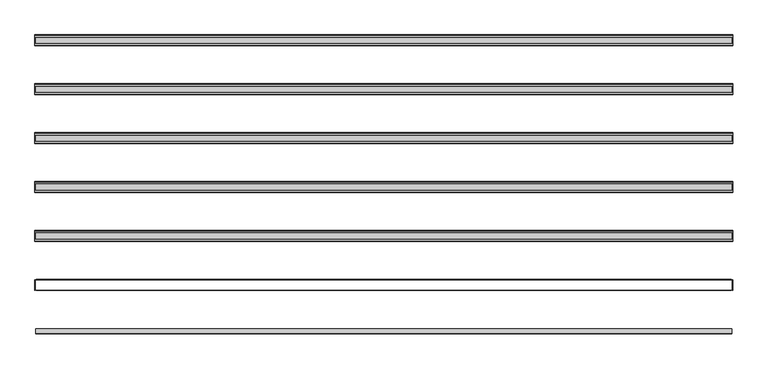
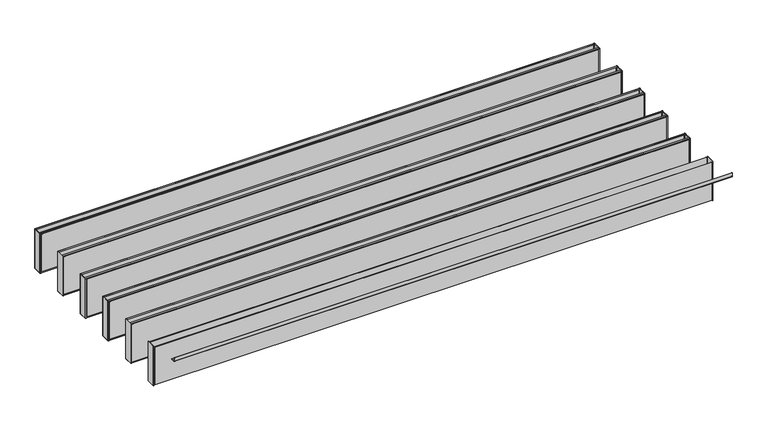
"""IFC4 building model written with IfcOpenShell, lengths in millimetres: proxy geometry, durlum_POLYLAM : durlum_POLYLAM 63."""

from ifc_helpers import new_model, si_unit, point, frame, frame_2d, origin, place, context, project, spatial, polyline, circle_curve, trimmed, segment, composite_curve, outline, extrude, source, transform, mapped, element, save
from ifc_brep_helpers import plane_surface, cylinder_surface, advanced_brep


def generic_models_02a78667(model_context):
    return source(origin(), model_context, "Body", "SolidModel", [
        extrude(outline(composite_curve([segment(polyline([(2.0, 2079.9), (2.0, 2054.0)]), True, "CONTINUOUS"), segment(trimmed(circle_curve(frame_2d((4.0, 2054.0)), 2.0), [point((2.0, 2054.0))], [point((4.0, 2052.0))], True, "CARTESIAN"), True, "CONTINUOUS"), segment(polyline([(4.0, 2052.0), (29.9, 2052.0), (29.9, 2050.0), (4.0, 2050.0)]), True, "CONTINUOUS"), segment(trimmed(circle_curve(frame_2d((4.0, 2054.0)), 4.0), [point((4.0, 2050.0))], [point((0.0, 2054.0))], False, "CARTESIAN"), True, "CONTINUOUS"), segment(polyline([(0.0, 2054.0), (0.0, 2079.9), (2.0, 2079.9)]), True, "CONTINUOUS")], self_intersect=False)), frame((-1990.0, 0.0, 0.0), z_axis=(1.0, 0.0, 0.0), x_axis=(0.0, 1.0, 0.0)), (0.0, 0.0, 1.0), 3980.0),
        extrude(outline(polyline([(1986.5, 1710.5), (-1986.5, 1710.5), (-1986.5, 1711.5), (1986.5, 1711.5), (1986.5, 1710.5)])), frame((0.0, 0.0, 1725.4), z_axis=(0.0, 0.0, 1.0), x_axis=(1.0, 0.0, 0.0)), (0.0, 0.0, 1.0), 283.0),
        extrude(outline(polyline([(1986.5, 1648.5), (-1986.5, 1648.5), (-1986.5, 1649.5), (1986.5, 1649.5), (1986.5, 1648.5)])), frame((0.0, 0.0, 1725.4), z_axis=(0.0, 0.0, 1.0), x_axis=(1.0, 0.0, 0.0)), (0.0, 0.0, 1.0), 283.0),
        extrude(outline(polyline([(1993.0, 1710.5), (1995.0, 1710.5), (1995.0, 1649.5), (1993.0, 1649.5), (1993.0, 1710.5)])), frame((0.0, 0.0, 1717.9), z_axis=(0.0, 0.0, 1.0), x_axis=(1.0, 0.0, 0.0)), (0.0, 0.0, 1.0), 298.0),
        extrude(outline(polyline([(-1995.0, 1710.5), (-1993.0, 1710.5), (-1993.0, 1649.5), (-1995.0, 1649.5), (-1995.0, 1710.5)])), frame((0.0, 0.0, 1717.9), z_axis=(0.0, 0.0, 1.0), x_axis=(1.0, 0.0, 0.0)), (0.0, 0.0, 1.0), 298.0),
        advanced_brep(
        [(1995.0, 1709.5, 2016.9), (1995.0, 1699.5, 2016.9), (1995.0, 1699.5, 2015.9), (1995.0, 1710.5, 2015.9), (1995.0, 1710.5, 1717.9), (1995.0, 1649.5, 1717.9), (1995.0, 1649.5, 2015.8155735), (1995.0, 1660.5, 2015.8155735), (1995.0, 1660.5, 2016.9), (1995.0, 1650.5, 2016.9), (1995.0, 1648.5, 2014.9), (1995.0, 1648.5, 1718.9), (1995.0, 1650.5, 1716.9), (1995.0, 1709.5, 1716.9), (1995.0, 1711.5, 1718.9), (1995.0, 1711.5, 2014.9), (-1995.0, 1709.5, 2016.9), (-1995.0, 1711.5, 2014.9), (-1995.0, 1711.5, 1718.9), (-1995.0, 1709.5, 1716.9), (-1995.0, 1650.5, 1716.9), (-1995.0, 1648.5, 1718.9), (-1995.0, 1648.5, 2014.9), (-1995.0, 1650.5, 2016.9), (-1995.0, 1660.5, 2016.9), (-1995.0, 1660.5, 2015.8155735), (-1995.0, 1649.5, 2015.8155735), (-1995.0, 1649.5, 1717.9), (-1995.0, 1710.5, 1717.9), (-1995.0, 1710.5, 2015.9), (-1995.0, 1699.5, 2015.9), (-1995.0, 1699.5, 2016.9), (-1986.5, 1710.5, 2008.4), (1986.5, 1710.5, 2008.4), (1986.5, 1710.5, 1725.4), (-1986.5, 1710.5, 1725.4), (1986.5, 1649.5, 2008.4), (-1986.5, 1649.5, 2008.4), (-1986.5, 1649.5, 1725.4), (1986.5, 1649.5, 1725.4), (-1986.5, 1648.5, 2008.4), (1986.5, 1648.5, 2008.4), (1986.5, 1648.5, 1725.4), (-1986.5, 1648.5, 1725.4), (1986.5, 1711.5, 2008.4), (-1986.5, 1711.5, 2008.4), (-1986.5, 1711.5, 1725.4), (1986.5, 1711.5, 1725.4)],
        [
            (0, 1),
            (1, 2),
            (2, 3),
            (3, 4),
            (4, 5),
            (5, 6),
            (6, 7),
            (7, 8),
            (8, 9),
            (9, 10, circle_curve(frame((1995.0, 1650.5, 2014.9), z_axis=(1.0, 0.0, 0.0), x_axis=(0.0, 1.0, 0.0)), 2.0)),
            (10, 11),
            (11, 12, circle_curve(frame((1995.0, 1650.5, 1718.9), z_axis=(1.0, 0.0, 0.0), x_axis=(0.0, 1.0, 0.0)), 2.0)),
            (12, 13),
            (13, 14, circle_curve(frame((1995.0, 1709.5, 1718.9), z_axis=(1.0, 0.0, 0.0), x_axis=(0.0, 1.0, 0.0)), 2.0)),
            (14, 15),
            (15, 0, circle_curve(frame((1995.0, 1709.5, 2014.9), z_axis=(1.0, 0.0, 0.0), x_axis=(0.0, 1.0, 0.0)), 2.0)),
            (16, 17, circle_curve(frame((-1995.0, 1709.5, 2014.9), z_axis=(-1.0, 0.0, 0.0), x_axis=(0.0, 1.0, 0.0)), 2.0)),
            (17, 18),
            (18, 19, circle_curve(frame((-1995.0, 1709.5, 1718.9), z_axis=(-1.0, 0.0, 0.0), x_axis=(0.0, 1.0, 0.0)), 2.0)),
            (19, 20),
            (20, 21, circle_curve(frame((-1995.0, 1650.5, 1718.9), z_axis=(-1.0, 0.0, 0.0), x_axis=(0.0, 1.0, 0.0)), 2.0)),
            (21, 22),
            (22, 23, circle_curve(frame((-1995.0, 1650.5, 2014.9), z_axis=(-1.0, 0.0, 0.0), x_axis=(0.0, 1.0, 0.0)), 2.0)),
            (23, 24),
            (24, 25),
            (25, 26),
            (26, 27),
            (27, 28),
            (28, 29),
            (29, 30),
            (30, 31),
            (31, 16),
            (0, 16),
            (31, 1),
            (30, 2),
            (29, 3),
            (28, 4),
            (32, 33),
            (33, 34),
            (34, 35),
            (35, 32),
            (27, 5),
            (26, 6),
            (36, 37),
            (37, 38),
            (38, 39),
            (39, 36),
            (25, 7),
            (24, 8),
            (23, 9),
            (10, 22),
            (21, 11),
            (40, 41),
            (41, 42),
            (42, 43),
            (43, 40),
            (12, 20),
            (19, 13),
            (14, 18),
            (17, 15),
            (44, 45),
            (45, 46),
            (46, 47),
            (47, 44),
            (44, 33),
            (32, 45),
            (36, 41),
            (40, 37),
            (35, 46),
            (43, 38),
            (34, 47),
            (42, 39),
        ],
        [
            plane_surface(frame((1995.0, 1699.5, 2016.9), z_axis=(1.0, 0.0, 0.0), x_axis=(0.0, -1.0, 0.0))),
            plane_surface(frame((-1995.0, 1699.5, 2016.9), z_axis=(-1.0, 0.0, 0.0), x_axis=(0.0, 1.0, 0.0))),
            plane_surface(frame((1995.0, 1709.5, 2016.9), z_axis=(0.0, 0.0, 1.0), x_axis=(-1.0, 0.0, 0.0))),
            plane_surface(frame((1995.0, 1699.5, 2016.9), z_axis=(0.0, -1.0, 0.0), x_axis=(-1.0, 0.0, 0.0))),
            plane_surface(frame((1995.0, 1699.5, 2015.9), z_axis=(0.0, 0.0, -1.0), x_axis=(-1.0, 0.0, 0.0))),
            plane_surface(frame((1995.0, 1710.5, 2015.9), z_axis=(0.0, -1.0, 0.0), x_axis=(-1.0, 0.0, 0.0))),
            plane_surface(frame((1995.0, 1710.5, 1717.9), z_axis=(0.0, 0.0, 1.0), x_axis=(-1.0, 0.0, 0.0))),
            plane_surface(frame((1995.0, 1649.5, 1717.9), z_axis=(0.0, 1.0, 0.0), x_axis=(-1.0, 0.0, 0.0))),
            plane_surface(frame((1995.0, 1649.5, 2015.8155735), z_axis=(0.0, 0.0, -1.0), x_axis=(-1.0, 0.0, 0.0))),
            plane_surface(frame((1995.0, 1660.5, 2015.8155735), z_axis=(0.0, 1.0, 0.0), x_axis=(-1.0, 0.0, 0.0))),
            plane_surface(frame((1995.0, 1660.5, 2016.9), z_axis=(0.0, 0.0, 1.0), x_axis=(-1.0, 0.0, 0.0))),
            plane_surface(frame((1995.0, 1648.5, 2014.9), z_axis=(0.0, -1.0, 0.0), x_axis=(-1.0, 0.0, 0.0))),
            plane_surface(frame((1995.0, 1650.5, 1716.9), z_axis=(0.0, 0.0, -1.0), x_axis=(-1.0, 0.0, 0.0))),
            plane_surface(frame((1995.0, 1711.5, 1718.9), z_axis=(0.0, 1.0, 0.0), x_axis=(-1.0, 0.0, 0.0))),
            cylinder_surface(frame((-1995.0, 1650.5, 2014.9), z_axis=(1.0, 0.0, 0.0), x_axis=(0.0, 1.0, 0.0)), 2.0),
            cylinder_surface(frame((-1995.0, 1650.5, 1718.9), z_axis=(1.0, 0.0, 0.0), x_axis=(0.0, 1.0, 0.0)), 2.0),
            cylinder_surface(frame((-1995.0, 1709.5, 1718.9), z_axis=(1.0, 0.0, 0.0), x_axis=(0.0, 1.0, 0.0)), 2.0),
            cylinder_surface(frame((-1995.0, 1709.5, 2014.9), z_axis=(1.0, 0.0, 0.0), x_axis=(0.0, 1.0, 0.0)), 2.0),
            plane_surface(frame((1986.5, 1648.5, 2008.4), z_axis=(0.0, 0.0, -1.0), x_axis=(0.0, 1.0, 0.0))),
            plane_surface(frame((-1986.5, 1648.5, 2008.4), z_axis=(1.0, 0.0, 0.0), x_axis=(0.0, 1.0, 0.0))),
            plane_surface(frame((-1986.5, 1648.5, 1725.4), z_axis=(0.0, 0.0, 1.0), x_axis=(0.0, 1.0, 0.0))),
            plane_surface(frame((1986.5, 1648.5, 1725.4), z_axis=(-1.0, 0.0, 0.0), x_axis=(0.0, 1.0, 0.0))),
        ],
        [
            (0, [[1, 2, 3, 4, 5, 6, 7, 8, 9, 10, 11, 12, 13, 14, 15, 16]]),
            (1, [[17, 18, 19, 20, 21, 22, 23, 24, 25, 26, 27, 28, 29, 30, 31, 32]]),
            (2, [[-1, 33, -32, 34]]),
            (3, [[-2, -34, -31, 35]]),
            (4, [[-3, -35, -30, 36]]),
            (5, [[-4, -36, -29, 37], [38, 39, 40, 41]]),
            (6, [[-5, -37, -28, 42]]),
            (7, [[-6, -42, -27, 43], [44, 45, 46, 47]]),
            (8, [[-7, -43, -26, 48]]),
            (9, [[-8, -48, -25, 49]]),
            (10, [[-9, -49, -24, 50]]),
            (11, [[-11, 51, -22, 52], [53, 54, 55, 56]]),
            (12, [[-13, 57, -20, 58]]),
            (13, [[-15, 59, -18, 60], [61, 62, 63, 64]]),
            (14, [[-10, -50, -23, -51]]),
            (15, [[-12, -52, -21, -57]]),
            (16, [[-14, -58, -19, -59]]),
            (17, [[-16, -60, -17, -33]]),
            (18, [[65, -38, 66, -61]]),
            (18, [[67, -53, 68, -44]]),
            (19, [[-66, -41, 69, -62]]),
            (19, [[-68, -56, 70, -45]]),
            (20, [[-69, -40, 71, -63]]),
            (20, [[-70, -55, 72, -46]]),
            (21, [[-65, -64, -71, -39]]),
            (21, [[-67, -47, -72, -54]]),
        ],
    ),
        extrude(outline(polyline([(1986.5, 1430.5), (-1986.5, 1430.5), (-1986.5, 1431.5), (1986.5, 1431.5), (1986.5, 1430.5)])), frame((0.0, 0.0, 1725.4), z_axis=(0.0, 0.0, 1.0), x_axis=(1.0, 0.0, 0.0)), (0.0, 0.0, 1.0), 283.0),
        extrude(outline(polyline([(1986.5, 1368.5), (-1986.5, 1368.5), (-1986.5, 1369.5), (1986.5, 1369.5), (1986.5, 1368.5)])), frame((0.0, 0.0, 1725.4), z_axis=(0.0, 0.0, 1.0), x_axis=(1.0, 0.0, 0.0)), (0.0, 0.0, 1.0), 283.0),
        extrude(outline(polyline([(1993.0, 1430.5), (1995.0, 1430.5), (1995.0, 1369.5), (1993.0, 1369.5), (1993.0, 1430.5)])), frame((0.0, 0.0, 1717.9), z_axis=(0.0, 0.0, 1.0), x_axis=(1.0, 0.0, 0.0)), (0.0, 0.0, 1.0), 298.0),
        extrude(outline(polyline([(-1995.0, 1430.5), (-1993.0, 1430.5), (-1993.0, 1369.5), (-1995.0, 1369.5), (-1995.0, 1430.5)])), frame((0.0, 0.0, 1717.9), z_axis=(0.0, 0.0, 1.0), x_axis=(1.0, 0.0, 0.0)), (0.0, 0.0, 1.0), 298.0),
        advanced_brep(
        [(1995.0, 1429.5, 2016.9), (1995.0, 1419.5, 2016.9), (1995.0, 1419.5, 2015.9), (1995.0, 1430.5, 2015.9), (1995.0, 1430.5, 1717.9), (1995.0, 1369.5, 1717.9), (1995.0, 1369.5, 2015.8155735), (1995.0, 1380.5, 2015.8155735), (1995.0, 1380.5, 2016.9), (1995.0, 1370.5, 2016.9), (1995.0, 1368.5, 2014.9), (1995.0, 1368.5, 1718.9), (1995.0, 1370.5, 1716.9), (1995.0, 1429.5, 1716.9), (1995.0, 1431.5, 1718.9), (1995.0, 1431.5, 2014.9), (-1995.0, 1429.5, 2016.9), (-1995.0, 1431.5, 2014.9), (-1995.0, 1431.5, 1718.9), (-1995.0, 1429.5, 1716.9), (-1995.0, 1370.5, 1716.9), (-1995.0, 1368.5, 1718.9), (-1995.0, 1368.5, 2014.9), (-1995.0, 1370.5, 2016.9), (-1995.0, 1380.5, 2016.9), (-1995.0, 1380.5, 2015.8155735), (-1995.0, 1369.5, 2015.8155735), (-1995.0, 1369.5, 1717.9), (-1995.0, 1430.5, 1717.9), (-1995.0, 1430.5, 2015.9), (-1995.0, 1419.5, 2015.9), (-1995.0, 1419.5, 2016.9), (-1986.5, 1430.5, 2008.4), (1986.5, 1430.5, 2008.4), (1986.5, 1430.5, 1725.4), (-1986.5, 1430.5, 1725.4), (1986.5, 1369.5, 2008.4), (-1986.5, 1369.5, 2008.4), (-1986.5, 1369.5, 1725.4), (1986.5, 1369.5, 1725.4), (-1986.5, 1368.5, 2008.4), (1986.5, 1368.5, 2008.4), (1986.5, 1368.5, 1725.4), (-1986.5, 1368.5, 1725.4), (1986.5, 1431.5, 2008.4), (-1986.5, 1431.5, 2008.4), (-1986.5, 1431.5, 1725.4), (1986.5, 1431.5, 1725.4)],
        [
            (0, 1),
            (1, 2),
            (2, 3),
            (3, 4),
            (4, 5),
            (5, 6),
            (6, 7),
            (7, 8),
            (8, 9),
            (9, 10, circle_curve(frame((1995.0, 1370.5, 2014.9), z_axis=(1.0, 0.0, 0.0), x_axis=(0.0, 1.0, 0.0)), 2.0)),
            (10, 11),
            (11, 12, circle_curve(frame((1995.0, 1370.5, 1718.9), z_axis=(1.0, 0.0, 0.0), x_axis=(0.0, 1.0, 0.0)), 2.0)),
            (12, 13),
            (13, 14, circle_curve(frame((1995.0, 1429.5, 1718.9), z_axis=(1.0, 0.0, 0.0), x_axis=(0.0, 1.0, 0.0)), 2.0)),
            (14, 15),
            (15, 0, circle_curve(frame((1995.0, 1429.5, 2014.9), z_axis=(1.0, 0.0, 0.0), x_axis=(0.0, 1.0, 0.0)), 2.0)),
            (16, 17, circle_curve(frame((-1995.0, 1429.5, 2014.9), z_axis=(-1.0, 0.0, 0.0), x_axis=(0.0, 1.0, 0.0)), 2.0)),
            (17, 18),
            (18, 19, circle_curve(frame((-1995.0, 1429.5, 1718.9), z_axis=(-1.0, 0.0, 0.0), x_axis=(0.0, 1.0, 0.0)), 2.0)),
            (19, 20),
            (20, 21, circle_curve(frame((-1995.0, 1370.5, 1718.9), z_axis=(-1.0, 0.0, 0.0), x_axis=(0.0, 1.0, 0.0)), 2.0)),
            (21, 22),
            (22, 23, circle_curve(frame((-1995.0, 1370.5, 2014.9), z_axis=(-1.0, 0.0, 0.0), x_axis=(0.0, 1.0, 0.0)), 2.0)),
            (23, 24),
            (24, 25),
            (25, 26),
            (26, 27),
            (27, 28),
            (28, 29),
            (29, 30),
            (30, 31),
            (31, 16),
            (0, 16),
            (31, 1),
            (30, 2),
            (29, 3),
            (28, 4),
            (32, 33),
            (33, 34),
            (34, 35),
            (35, 32),
            (27, 5),
            (26, 6),
            (36, 37),
            (37, 38),
            (38, 39),
            (39, 36),
            (25, 7),
            (24, 8),
            (23, 9),
            (10, 22),
            (21, 11),
            (40, 41),
            (41, 42),
            (42, 43),
            (43, 40),
            (12, 20),
            (19, 13),
            (14, 18),
            (17, 15),
            (44, 45),
            (45, 46),
            (46, 47),
            (47, 44),
            (44, 33),
            (32, 45),
            (36, 41),
            (40, 37),
            (35, 46),
            (43, 38),
            (34, 47),
            (42, 39),
        ],
        [
            plane_surface(frame((1995.0, 1419.5, 2016.9), z_axis=(1.0, 0.0, 0.0), x_axis=(0.0, -1.0, 0.0))),
            plane_surface(frame((-1995.0, 1419.5, 2016.9), z_axis=(-1.0, 0.0, 0.0), x_axis=(0.0, 1.0, 0.0))),
            plane_surface(frame((1995.0, 1429.5, 2016.9), z_axis=(0.0, 0.0, 1.0), x_axis=(-1.0, 0.0, 0.0))),
            plane_surface(frame((1995.0, 1419.5, 2016.9), z_axis=(0.0, -1.0, 0.0), x_axis=(-1.0, 0.0, 0.0))),
            plane_surface(frame((1995.0, 1419.5, 2015.9), z_axis=(0.0, 0.0, -1.0), x_axis=(-1.0, 0.0, 0.0))),
            plane_surface(frame((1995.0, 1430.5, 2015.9), z_axis=(0.0, -1.0, 0.0), x_axis=(-1.0, 0.0, 0.0))),
            plane_surface(frame((1995.0, 1430.5, 1717.9), z_axis=(0.0, 0.0, 1.0), x_axis=(-1.0, 0.0, 0.0))),
            plane_surface(frame((1995.0, 1369.5, 1717.9), z_axis=(0.0, 1.0, 0.0), x_axis=(-1.0, 0.0, 0.0))),
            plane_surface(frame((1995.0, 1369.5, 2015.8155735), z_axis=(0.0, 0.0, -1.0), x_axis=(-1.0, 0.0, 0.0))),
            plane_surface(frame((1995.0, 1380.5, 2015.8155735), z_axis=(0.0, 1.0, 0.0), x_axis=(-1.0, 0.0, 0.0))),
            plane_surface(frame((1995.0, 1380.5, 2016.9), z_axis=(0.0, 0.0, 1.0), x_axis=(-1.0, 0.0, 0.0))),
            plane_surface(frame((1995.0, 1368.5, 2014.9), z_axis=(0.0, -1.0, 0.0), x_axis=(-1.0, 0.0, 0.0))),
            plane_surface(frame((1995.0, 1370.5, 1716.9), z_axis=(0.0, 0.0, -1.0), x_axis=(-1.0, 0.0, 0.0))),
            plane_surface(frame((1995.0, 1431.5, 1718.9), z_axis=(0.0, 1.0, 0.0), x_axis=(-1.0, 0.0, 0.0))),
            cylinder_surface(frame((-1995.0, 1370.5, 2014.9), z_axis=(1.0, 0.0, 0.0), x_axis=(0.0, 1.0, 0.0)), 2.0),
            cylinder_surface(frame((-1995.0, 1370.5, 1718.9), z_axis=(1.0, 0.0, 0.0), x_axis=(0.0, 1.0, 0.0)), 2.0),
            cylinder_surface(frame((-1995.0, 1429.5, 1718.9), z_axis=(1.0, 0.0, 0.0), x_axis=(0.0, 1.0, 0.0)), 2.0),
            cylinder_surface(frame((-1995.0, 1429.5, 2014.9), z_axis=(1.0, 0.0, 0.0), x_axis=(0.0, 1.0, 0.0)), 2.0),
            plane_surface(frame((1986.5, 1368.5, 2008.4), z_axis=(0.0, 0.0, -1.0), x_axis=(0.0, 1.0, 0.0))),
            plane_surface(frame((-1986.5, 1368.5, 2008.4), z_axis=(1.0, 0.0, 0.0), x_axis=(0.0, 1.0, 0.0))),
            plane_surface(frame((-1986.5, 1368.5, 1725.4), z_axis=(0.0, 0.0, 1.0), x_axis=(0.0, 1.0, 0.0))),
            plane_surface(frame((1986.5, 1368.5, 1725.4), z_axis=(-1.0, 0.0, 0.0), x_axis=(0.0, 1.0, 0.0))),
        ],
        [
            (0, [[1, 2, 3, 4, 5, 6, 7, 8, 9, 10, 11, 12, 13, 14, 15, 16]]),
            (1, [[17, 18, 19, 20, 21, 22, 23, 24, 25, 26, 27, 28, 29, 30, 31, 32]]),
            (2, [[-1, 33, -32, 34]]),
            (3, [[-2, -34, -31, 35]]),
            (4, [[-3, -35, -30, 36]]),
            (5, [[-4, -36, -29, 37], [38, 39, 40, 41]]),
            (6, [[-5, -37, -28, 42]]),
            (7, [[-6, -42, -27, 43], [44, 45, 46, 47]]),
            (8, [[-7, -43, -26, 48]]),
            (9, [[-8, -48, -25, 49]]),
            (10, [[-9, -49, -24, 50]]),
            (11, [[-11, 51, -22, 52], [53, 54, 55, 56]]),
            (12, [[-13, 57, -20, 58]]),
            (13, [[-15, 59, -18, 60], [61, 62, 63, 64]]),
            (14, [[-10, -50, -23, -51]]),
            (15, [[-12, -52, -21, -57]]),
            (16, [[-14, -58, -19, -59]]),
            (17, [[-16, -60, -17, -33]]),
            (18, [[65, -38, 66, -61]]),
            (18, [[67, -53, 68, -44]]),
            (19, [[-66, -41, 69, -62]]),
            (19, [[-68, -56, 70, -45]]),
            (20, [[-69, -40, 71, -63]]),
            (20, [[-70, -55, 72, -46]]),
            (21, [[-65, -64, -71, -39]]),
            (21, [[-67, -47, -72, -54]]),
        ],
    ),
        extrude(outline(polyline([(1986.5, 1150.5), (-1986.5, 1150.5), (-1986.5, 1151.5), (1986.5, 1151.5), (1986.5, 1150.5)])), frame((0.0, 0.0, 1725.4), z_axis=(0.0, 0.0, 1.0), x_axis=(1.0, 0.0, 0.0)), (0.0, 0.0, 1.0), 283.0),
        extrude(outline(polyline([(1986.5, 1088.5), (-1986.5, 1088.5), (-1986.5, 1089.5), (1986.5, 1089.5), (1986.5, 1088.5)])), frame((0.0, 0.0, 1725.4), z_axis=(0.0, 0.0, 1.0), x_axis=(1.0, 0.0, 0.0)), (0.0, 0.0, 1.0), 283.0),
        extrude(outline(polyline([(1993.0, 1150.5), (1995.0, 1150.5), (1995.0, 1089.5), (1993.0, 1089.5), (1993.0, 1150.5)])), frame((0.0, 0.0, 1717.9), z_axis=(0.0, 0.0, 1.0), x_axis=(1.0, 0.0, 0.0)), (0.0, 0.0, 1.0), 298.0),
        extrude(outline(polyline([(-1995.0, 1150.5), (-1993.0, 1150.5), (-1993.0, 1089.5), (-1995.0, 1089.5), (-1995.0, 1150.5)])), frame((0.0, 0.0, 1717.9), z_axis=(0.0, 0.0, 1.0), x_axis=(1.0, 0.0, 0.0)), (0.0, 0.0, 1.0), 298.0),
        advanced_brep(
        [(1995.0, 1149.5, 2016.9), (1995.0, 1139.5, 2016.9), (1995.0, 1139.5, 2015.9), (1995.0, 1150.5, 2015.9), (1995.0, 1150.5, 1717.9), (1995.0, 1089.5, 1717.9), (1995.0, 1089.5, 2015.8155735), (1995.0, 1100.5, 2015.8155735), (1995.0, 1100.5, 2016.9), (1995.0, 1090.5, 2016.9), (1995.0, 1088.5, 2014.9), (1995.0, 1088.5, 1718.9), (1995.0, 1090.5, 1716.9), (1995.0, 1149.5, 1716.9), (1995.0, 1151.5, 1718.9), (1995.0, 1151.5, 2014.9), (-1995.0, 1149.5, 2016.9), (-1995.0, 1151.5, 2014.9), (-1995.0, 1151.5, 1718.9), (-1995.0, 1149.5, 1716.9), (-1995.0, 1090.5, 1716.9), (-1995.0, 1088.5, 1718.9), (-1995.0, 1088.5, 2014.9), (-1995.0, 1090.5, 2016.9), (-1995.0, 1100.5, 2016.9), (-1995.0, 1100.5, 2015.8155735), (-1995.0, 1089.5, 2015.8155735), (-1995.0, 1089.5, 1717.9), (-1995.0, 1150.5, 1717.9), (-1995.0, 1150.5, 2015.9), (-1995.0, 1139.5, 2015.9), (-1995.0, 1139.5, 2016.9), (-1986.5, 1150.5, 2008.4), (1986.5, 1150.5, 2008.4), (1986.5, 1150.5, 1725.4), (-1986.5, 1150.5, 1725.4), (1986.5, 1089.5, 2008.4), (-1986.5, 1089.5, 2008.4), (-1986.5, 1089.5, 1725.4), (1986.5, 1089.5, 1725.4), (-1986.5, 1088.5, 2008.4), (1986.5, 1088.5, 2008.4), (1986.5, 1088.5, 1725.4), (-1986.5, 1088.5, 1725.4), (1986.5, 1151.5, 2008.4), (-1986.5, 1151.5, 2008.4), (-1986.5, 1151.5, 1725.4), (1986.5, 1151.5, 1725.4)],
        [
            (0, 1),
            (1, 2),
            (2, 3),
            (3, 4),
            (4, 5),
            (5, 6),
            (6, 7),
            (7, 8),
            (8, 9),
            (9, 10, circle_curve(frame((1995.0, 1090.5, 2014.9), z_axis=(1.0, 0.0, 0.0), x_axis=(0.0, 1.0, 0.0)), 2.0)),
            (10, 11),
            (11, 12, circle_curve(frame((1995.0, 1090.5, 1718.9), z_axis=(1.0, 0.0, 0.0), x_axis=(0.0, 1.0, 0.0)), 2.0)),
            (12, 13),
            (13, 14, circle_curve(frame((1995.0, 1149.5, 1718.9), z_axis=(1.0, 0.0, 0.0), x_axis=(0.0, 1.0, 0.0)), 2.0)),
            (14, 15),
            (15, 0, circle_curve(frame((1995.0, 1149.5, 2014.9), z_axis=(1.0, 0.0, 0.0), x_axis=(0.0, 1.0, 0.0)), 2.0)),
            (16, 17, circle_curve(frame((-1995.0, 1149.5, 2014.9), z_axis=(-1.0, 0.0, 0.0), x_axis=(0.0, 1.0, 0.0)), 2.0)),
            (17, 18),
            (18, 19, circle_curve(frame((-1995.0, 1149.5, 1718.9), z_axis=(-1.0, 0.0, 0.0), x_axis=(0.0, 1.0, 0.0)), 2.0)),
            (19, 20),
            (20, 21, circle_curve(frame((-1995.0, 1090.5, 1718.9), z_axis=(-1.0, 0.0, 0.0), x_axis=(0.0, 1.0, 0.0)), 2.0)),
            (21, 22),
            (22, 23, circle_curve(frame((-1995.0, 1090.5, 2014.9), z_axis=(-1.0, 0.0, 0.0), x_axis=(0.0, 1.0, 0.0)), 2.0)),
            (23, 24),
            (24, 25),
            (25, 26),
            (26, 27),
            (27, 28),
            (28, 29),
            (29, 30),
            (30, 31),
            (31, 16),
            (0, 16),
            (31, 1),
            (30, 2),
            (29, 3),
            (28, 4),
            (32, 33),
            (33, 34),
            (34, 35),
            (35, 32),
            (27, 5),
            (26, 6),
            (36, 37),
            (37, 38),
            (38, 39),
            (39, 36),
            (25, 7),
            (24, 8),
            (23, 9),
            (10, 22),
            (21, 11),
            (40, 41),
            (41, 42),
            (42, 43),
            (43, 40),
            (12, 20),
            (19, 13),
            (14, 18),
            (17, 15),
            (44, 45),
            (45, 46),
            (46, 47),
            (47, 44),
            (44, 33),
            (32, 45),
            (36, 41),
            (40, 37),
            (35, 46),
            (43, 38),
            (34, 47),
            (42, 39),
        ],
        [
            plane_surface(frame((1995.0, 1139.5, 2016.9), z_axis=(1.0, 0.0, 0.0), x_axis=(0.0, -1.0, 0.0))),
            plane_surface(frame((-1995.0, 1139.5, 2016.9), z_axis=(-1.0, 0.0, 0.0), x_axis=(0.0, 1.0, 0.0))),
            plane_surface(frame((1995.0, 1149.5, 2016.9), z_axis=(0.0, 0.0, 1.0), x_axis=(-1.0, 0.0, 0.0))),
            plane_surface(frame((1995.0, 1139.5, 2016.9), z_axis=(0.0, -1.0, 0.0), x_axis=(-1.0, 0.0, 0.0))),
            plane_surface(frame((1995.0, 1139.5, 2015.9), z_axis=(0.0, 0.0, -1.0), x_axis=(-1.0, 0.0, 0.0))),
            plane_surface(frame((1995.0, 1150.5, 2015.9), z_axis=(0.0, -1.0, 0.0), x_axis=(-1.0, 0.0, 0.0))),
            plane_surface(frame((1995.0, 1150.5, 1717.9), z_axis=(0.0, 0.0, 1.0), x_axis=(-1.0, 0.0, 0.0))),
            plane_surface(frame((1995.0, 1089.5, 1717.9), z_axis=(0.0, 1.0, 0.0), x_axis=(-1.0, 0.0, 0.0))),
            plane_surface(frame((1995.0, 1089.5, 2015.8155735), z_axis=(0.0, 0.0, -1.0), x_axis=(-1.0, 0.0, 0.0))),
            plane_surface(frame((1995.0, 1100.5, 2015.8155735), z_axis=(0.0, 1.0, 0.0), x_axis=(-1.0, 0.0, 0.0))),
            plane_surface(frame((1995.0, 1100.5, 2016.9), z_axis=(0.0, 0.0, 1.0), x_axis=(-1.0, 0.0, 0.0))),
            plane_surface(frame((1995.0, 1088.5, 2014.9), z_axis=(0.0, -1.0, 0.0), x_axis=(-1.0, 0.0, 0.0))),
            plane_surface(frame((1995.0, 1090.5, 1716.9), z_axis=(0.0, 0.0, -1.0), x_axis=(-1.0, 0.0, 0.0))),
            plane_surface(frame((1995.0, 1151.5, 1718.9), z_axis=(0.0, 1.0, 0.0), x_axis=(-1.0, 0.0, 0.0))),
            cylinder_surface(frame((-1995.0, 1090.5, 2014.9), z_axis=(1.0, 0.0, 0.0), x_axis=(0.0, 1.0, 0.0)), 2.0),
            cylinder_surface(frame((-1995.0, 1090.5, 1718.9), z_axis=(1.0, 0.0, 0.0), x_axis=(0.0, 1.0, 0.0)), 2.0),
            cylinder_surface(frame((-1995.0, 1149.5, 1718.9), z_axis=(1.0, 0.0, 0.0), x_axis=(0.0, 1.0, 0.0)), 2.0),
            cylinder_surface(frame((-1995.0, 1149.5, 2014.9), z_axis=(1.0, 0.0, 0.0), x_axis=(0.0, 1.0, 0.0)), 2.0),
            plane_surface(frame((1986.5, 1088.5, 2008.4), z_axis=(0.0, 0.0, -1.0), x_axis=(0.0, 1.0, 0.0))),
            plane_surface(frame((-1986.5, 1088.5, 2008.4), z_axis=(1.0, 0.0, 0.0), x_axis=(0.0, 1.0, 0.0))),
            plane_surface(frame((-1986.5, 1088.5, 1725.4), z_axis=(0.0, 0.0, 1.0), x_axis=(0.0, 1.0, 0.0))),
            plane_surface(frame((1986.5, 1088.5, 1725.4), z_axis=(-1.0, 0.0, 0.0), x_axis=(0.0, 1.0, 0.0))),
        ],
        [
            (0, [[1, 2, 3, 4, 5, 6, 7, 8, 9, 10, 11, 12, 13, 14, 15, 16]]),
            (1, [[17, 18, 19, 20, 21, 22, 23, 24, 25, 26, 27, 28, 29, 30, 31, 32]]),
            (2, [[-1, 33, -32, 34]]),
            (3, [[-2, -34, -31, 35]]),
            (4, [[-3, -35, -30, 36]]),
            (5, [[-4, -36, -29, 37], [38, 39, 40, 41]]),
            (6, [[-5, -37, -28, 42]]),
            (7, [[-6, -42, -27, 43], [44, 45, 46, 47]]),
            (8, [[-7, -43, -26, 48]]),
            (9, [[-8, -48, -25, 49]]),
            (10, [[-9, -49, -24, 50]]),
            (11, [[-11, 51, -22, 52], [53, 54, 55, 56]]),
            (12, [[-13, 57, -20, 58]]),
            (13, [[-15, 59, -18, 60], [61, 62, 63, 64]]),
            (14, [[-10, -50, -23, -51]]),
            (15, [[-12, -52, -21, -57]]),
            (16, [[-14, -58, -19, -59]]),
            (17, [[-16, -60, -17, -33]]),
            (18, [[65, -38, 66, -61]]),
            (18, [[67, -53, 68, -44]]),
            (19, [[-66, -41, 69, -62]]),
            (19, [[-68, -56, 70, -45]]),
            (20, [[-69, -40, 71, -63]]),
            (20, [[-70, -55, 72, -46]]),
            (21, [[-65, -64, -71, -39]]),
            (21, [[-67, -47, -72, -54]]),
        ],
    ),
        extrude(outline(polyline([(1986.5, 870.5), (-1986.5, 870.5), (-1986.5, 871.5), (1986.5, 871.5), (1986.5, 870.5)])), frame((0.0, 0.0, 1725.4), z_axis=(0.0, 0.0, 1.0), x_axis=(1.0, 0.0, 0.0)), (0.0, 0.0, 1.0), 283.0),
        extrude(outline(polyline([(1986.5, 808.5), (-1986.5, 808.5), (-1986.5, 809.5), (1986.5, 809.5), (1986.5, 808.5)])), frame((0.0, 0.0, 1725.4), z_axis=(0.0, 0.0, 1.0), x_axis=(1.0, 0.0, 0.0)), (0.0, 0.0, 1.0), 283.0),
        extrude(outline(polyline([(1993.0, 870.5), (1995.0, 870.5), (1995.0, 809.5), (1993.0, 809.5), (1993.0, 870.5)])), frame((0.0, 0.0, 1717.9), z_axis=(0.0, 0.0, 1.0), x_axis=(1.0, 0.0, 0.0)), (0.0, 0.0, 1.0), 298.0),
        extrude(outline(polyline([(-1995.0, 870.5), (-1993.0, 870.5), (-1993.0, 809.5), (-1995.0, 809.5), (-1995.0, 870.5)])), frame((0.0, 0.0, 1717.9), z_axis=(0.0, 0.0, 1.0), x_axis=(1.0, 0.0, 0.0)), (0.0, 0.0, 1.0), 298.0),
        advanced_brep(
        [(1995.0, 869.5, 2016.9), (1995.0, 859.5, 2016.9), (1995.0, 859.5, 2015.9), (1995.0, 870.5, 2015.9), (1995.0, 870.5, 1717.9), (1995.0, 809.5, 1717.9), (1995.0, 809.5, 2015.8155735), (1995.0, 820.5, 2015.8155735), (1995.0, 820.5, 2016.9), (1995.0, 810.5, 2016.9), (1995.0, 808.5, 2014.9), (1995.0, 808.5, 1718.9), (1995.0, 810.5, 1716.9), (1995.0, 869.5, 1716.9), (1995.0, 871.5, 1718.9), (1995.0, 871.5, 2014.9), (-1995.0, 869.5, 2016.9), (-1995.0, 871.5, 2014.9), (-1995.0, 871.5, 1718.9), (-1995.0, 869.5, 1716.9), (-1995.0, 810.5, 1716.9), (-1995.0, 808.5, 1718.9), (-1995.0, 808.5, 2014.9), (-1995.0, 810.5, 2016.9), (-1995.0, 820.5, 2016.9), (-1995.0, 820.5, 2015.8155735), (-1995.0, 809.5, 2015.8155735), (-1995.0, 809.5, 1717.9), (-1995.0, 870.5, 1717.9), (-1995.0, 870.5, 2015.9), (-1995.0, 859.5, 2015.9), (-1995.0, 859.5, 2016.9), (-1986.5, 870.5, 2008.4), (1986.5, 870.5, 2008.4), (1986.5, 870.5, 1725.4), (-1986.5, 870.5, 1725.4), (1986.5, 809.5, 2008.4), (-1986.5, 809.5, 2008.4), (-1986.5, 809.5, 1725.4), (1986.5, 809.5, 1725.4), (-1986.5, 808.5, 2008.4), (1986.5, 808.5, 2008.4), (1986.5, 808.5, 1725.4), (-1986.5, 808.5, 1725.4), (1986.5, 871.5, 2008.4), (-1986.5, 871.5, 2008.4), (-1986.5, 871.5, 1725.4), (1986.5, 871.5, 1725.4)],
        [
            (0, 1),
            (1, 2),
            (2, 3),
            (3, 4),
            (4, 5),
            (5, 6),
            (6, 7),
            (7, 8),
            (8, 9),
            (9, 10, circle_curve(frame((1995.0, 810.5, 2014.9), z_axis=(1.0, 0.0, 0.0), x_axis=(0.0, 1.0, 0.0)), 2.0)),
            (10, 11),
            (11, 12, circle_curve(frame((1995.0, 810.5, 1718.9), z_axis=(1.0, 0.0, 0.0), x_axis=(0.0, 1.0, 0.0)), 2.0)),
            (12, 13),
            (13, 14, circle_curve(frame((1995.0, 869.5, 1718.9), z_axis=(1.0, 0.0, 0.0), x_axis=(0.0, 1.0, 0.0)), 2.0)),
            (14, 15),
            (15, 0, circle_curve(frame((1995.0, 869.5, 2014.9), z_axis=(1.0, 0.0, 0.0), x_axis=(0.0, 1.0, 0.0)), 2.0)),
            (16, 17, circle_curve(frame((-1995.0, 869.5, 2014.9), z_axis=(-1.0, 0.0, 0.0), x_axis=(0.0, 1.0, 0.0)), 2.0)),
            (17, 18),
            (18, 19, circle_curve(frame((-1995.0, 869.5, 1718.9), z_axis=(-1.0, 0.0, 0.0), x_axis=(0.0, 1.0, 0.0)), 2.0)),
            (19, 20),
            (20, 21, circle_curve(frame((-1995.0, 810.5, 1718.9), z_axis=(-1.0, 0.0, 0.0), x_axis=(0.0, 1.0, 0.0)), 2.0)),
            (21, 22),
            (22, 23, circle_curve(frame((-1995.0, 810.5, 2014.9), z_axis=(-1.0, 0.0, 0.0), x_axis=(0.0, 1.0, 0.0)), 2.0)),
            (23, 24),
            (24, 25),
            (25, 26),
            (26, 27),
            (27, 28),
            (28, 29),
            (29, 30),
            (30, 31),
            (31, 16),
            (0, 16),
            (31, 1),
            (30, 2),
            (29, 3),
            (28, 4),
            (32, 33),
            (33, 34),
            (34, 35),
            (35, 32),
            (27, 5),
            (26, 6),
            (36, 37),
            (37, 38),
            (38, 39),
            (39, 36),
            (25, 7),
            (24, 8),
            (23, 9),
            (10, 22),
            (21, 11),
            (40, 41),
            (41, 42),
            (42, 43),
            (43, 40),
            (12, 20),
            (19, 13),
            (14, 18),
            (17, 15),
            (44, 45),
            (45, 46),
            (46, 47),
            (47, 44),
            (44, 33),
            (32, 45),
            (36, 41),
            (40, 37),
            (35, 46),
            (43, 38),
            (34, 47),
            (42, 39),
        ],
        [
            plane_surface(frame((1995.0, 859.5, 2016.9), z_axis=(1.0, 0.0, 0.0), x_axis=(0.0, -1.0, 0.0))),
            plane_surface(frame((-1995.0, 859.5, 2016.9), z_axis=(-1.0, 0.0, 0.0), x_axis=(0.0, 1.0, 0.0))),
            plane_surface(frame((1995.0, 869.5, 2016.9), z_axis=(0.0, 0.0, 1.0), x_axis=(-1.0, 0.0, 0.0))),
            plane_surface(frame((1995.0, 859.5, 2016.9), z_axis=(0.0, -1.0, 0.0), x_axis=(-1.0, 0.0, 0.0))),
            plane_surface(frame((1995.0, 859.5, 2015.9), z_axis=(0.0, 0.0, -1.0), x_axis=(-1.0, 0.0, 0.0))),
            plane_surface(frame((1995.0, 870.5, 2015.9), z_axis=(0.0, -1.0, 0.0), x_axis=(-1.0, 0.0, 0.0))),
            plane_surface(frame((1995.0, 870.5, 1717.9), z_axis=(0.0, 0.0, 1.0), x_axis=(-1.0, 0.0, 0.0))),
            plane_surface(frame((1995.0, 809.5, 1717.9), z_axis=(0.0, 1.0, 0.0), x_axis=(-1.0, 0.0, 0.0))),
            plane_surface(frame((1995.0, 809.5, 2015.8155735), z_axis=(0.0, 0.0, -1.0), x_axis=(-1.0, 0.0, 0.0))),
            plane_surface(frame((1995.0, 820.5, 2015.8155735), z_axis=(0.0, 1.0, 0.0), x_axis=(-1.0, 0.0, 0.0))),
            plane_surface(frame((1995.0, 820.5, 2016.9), z_axis=(0.0, 0.0, 1.0), x_axis=(-1.0, 0.0, 0.0))),
            plane_surface(frame((1995.0, 808.5, 2014.9), z_axis=(0.0, -1.0, 0.0), x_axis=(-1.0, 0.0, 0.0))),
            plane_surface(frame((1995.0, 810.5, 1716.9), z_axis=(0.0, 0.0, -1.0), x_axis=(-1.0, 0.0, 0.0))),
            plane_surface(frame((1995.0, 871.5, 1718.9), z_axis=(0.0, 1.0, 0.0), x_axis=(-1.0, 0.0, 0.0))),
            cylinder_surface(frame((-1995.0, 810.5, 2014.9), z_axis=(1.0, 0.0, 0.0), x_axis=(0.0, 1.0, 0.0)), 2.0),
            cylinder_surface(frame((-1995.0, 810.5, 1718.9), z_axis=(1.0, 0.0, 0.0), x_axis=(0.0, 1.0, 0.0)), 2.0),
            cylinder_surface(frame((-1995.0, 869.5, 1718.9), z_axis=(1.0, 0.0, 0.0), x_axis=(0.0, 1.0, 0.0)), 2.0),
            cylinder_surface(frame((-1995.0, 869.5, 2014.9), z_axis=(1.0, 0.0, 0.0), x_axis=(0.0, 1.0, 0.0)), 2.0),
            plane_surface(frame((1986.5, 808.5, 2008.4), z_axis=(0.0, 0.0, -1.0), x_axis=(0.0, 1.0, 0.0))),
            plane_surface(frame((-1986.5, 808.5, 2008.4), z_axis=(1.0, 0.0, 0.0), x_axis=(0.0, 1.0, 0.0))),
            plane_surface(frame((-1986.5, 808.5, 1725.4), z_axis=(0.0, 0.0, 1.0), x_axis=(0.0, 1.0, 0.0))),
            plane_surface(frame((1986.5, 808.5, 1725.4), z_axis=(-1.0, 0.0, 0.0), x_axis=(0.0, 1.0, 0.0))),
        ],
        [
            (0, [[1, 2, 3, 4, 5, 6, 7, 8, 9, 10, 11, 12, 13, 14, 15, 16]]),
            (1, [[17, 18, 19, 20, 21, 22, 23, 24, 25, 26, 27, 28, 29, 30, 31, 32]]),
            (2, [[-1, 33, -32, 34]]),
            (3, [[-2, -34, -31, 35]]),
            (4, [[-3, -35, -30, 36]]),
            (5, [[-4, -36, -29, 37], [38, 39, 40, 41]]),
            (6, [[-5, -37, -28, 42]]),
            (7, [[-6, -42, -27, 43], [44, 45, 46, 47]]),
            (8, [[-7, -43, -26, 48]]),
            (9, [[-8, -48, -25, 49]]),
            (10, [[-9, -49, -24, 50]]),
            (11, [[-11, 51, -22, 52], [53, 54, 55, 56]]),
            (12, [[-13, 57, -20, 58]]),
            (13, [[-15, 59, -18, 60], [61, 62, 63, 64]]),
            (14, [[-10, -50, -23, -51]]),
            (15, [[-12, -52, -21, -57]]),
            (16, [[-14, -58, -19, -59]]),
            (17, [[-16, -60, -17, -33]]),
            (18, [[65, -38, 66, -61]]),
            (18, [[67, -53, 68, -44]]),
            (19, [[-66, -41, 69, -62]]),
            (19, [[-68, -56, 70, -45]]),
            (20, [[-69, -40, 71, -63]]),
            (20, [[-70, -55, 72, -46]]),
            (21, [[-65, -64, -71, -39]]),
            (21, [[-67, -47, -72, -54]]),
        ],
    ),
        extrude(outline(polyline([(1986.5, 590.5), (-1986.5, 590.5), (-1986.5, 591.5), (1986.5, 591.5), (1986.5, 590.5)])), frame((0.0, 0.0, 1725.4), z_axis=(0.0, 0.0, 1.0), x_axis=(1.0, 0.0, 0.0)), (0.0, 0.0, 1.0), 283.0),
        extrude(outline(polyline([(1986.5, 528.5), (-1986.5, 528.5), (-1986.5, 529.5), (1986.5, 529.5), (1986.5, 528.5)])), frame((0.0, 0.0, 1725.4), z_axis=(0.0, 0.0, 1.0), x_axis=(1.0, 0.0, 0.0)), (0.0, 0.0, 1.0), 283.0),
        extrude(outline(polyline([(1993.0, 590.5), (1995.0, 590.5), (1995.0, 529.5), (1993.0, 529.5), (1993.0, 590.5)])), frame((0.0, 0.0, 1717.9), z_axis=(0.0, 0.0, 1.0), x_axis=(1.0, 0.0, 0.0)), (0.0, 0.0, 1.0), 298.0),
        extrude(outline(polyline([(-1995.0, 590.5), (-1993.0, 590.5), (-1993.0, 529.5), (-1995.0, 529.5), (-1995.0, 590.5)])), frame((0.0, 0.0, 1717.9), z_axis=(0.0, 0.0, 1.0), x_axis=(1.0, 0.0, 0.0)), (0.0, 0.0, 1.0), 298.0),
        advanced_brep(
        [(1995.0, 589.5, 2016.9), (1995.0, 579.5, 2016.9), (1995.0, 579.5, 2015.9), (1995.0, 590.5, 2015.9), (1995.0, 590.5, 1717.9), (1995.0, 529.5, 1717.9), (1995.0, 529.5, 2015.8155735), (1995.0, 540.5, 2015.8155735), (1995.0, 540.5, 2016.9), (1995.0, 530.5, 2016.9), (1995.0, 528.5, 2014.9), (1995.0, 528.5, 1718.9), (1995.0, 530.5, 1716.9), (1995.0, 589.5, 1716.9), (1995.0, 591.5, 1718.9), (1995.0, 591.5, 2014.9), (-1995.0, 589.5, 2016.9), (-1995.0, 591.5, 2014.9), (-1995.0, 591.5, 1718.9), (-1995.0, 589.5, 1716.9), (-1995.0, 530.5, 1716.9), (-1995.0, 528.5, 1718.9), (-1995.0, 528.5, 2014.9), (-1995.0, 530.5, 2016.9), (-1995.0, 540.5, 2016.9), (-1995.0, 540.5, 2015.8155735), (-1995.0, 529.5, 2015.8155735), (-1995.0, 529.5, 1717.9), (-1995.0, 590.5, 1717.9), (-1995.0, 590.5, 2015.9), (-1995.0, 579.5, 2015.9), (-1995.0, 579.5, 2016.9), (-1986.5, 590.5, 2008.4), (1986.5, 590.5, 2008.4), (1986.5, 590.5, 1725.4), (-1986.5, 590.5, 1725.4), (1986.5, 529.5, 2008.4), (-1986.5, 529.5, 2008.4), (-1986.5, 529.5, 1725.4), (1986.5, 529.5, 1725.4), (-1986.5, 528.5, 2008.4), (1986.5, 528.5, 2008.4), (1986.5, 528.5, 1725.4), (-1986.5, 528.5, 1725.4), (1986.5, 591.5, 2008.4), (-1986.5, 591.5, 2008.4), (-1986.5, 591.5, 1725.4), (1986.5, 591.5, 1725.4)],
        [
            (0, 1),
            (1, 2),
            (2, 3),
            (3, 4),
            (4, 5),
            (5, 6),
            (6, 7),
            (7, 8),
            (8, 9),
            (9, 10, circle_curve(frame((1995.0, 530.5, 2014.9), z_axis=(1.0, 0.0, 0.0), x_axis=(0.0, 1.0, 0.0)), 2.0)),
            (10, 11),
            (11, 12, circle_curve(frame((1995.0, 530.5, 1718.9), z_axis=(1.0, 0.0, 0.0), x_axis=(0.0, 1.0, 0.0)), 2.0)),
            (12, 13),
            (13, 14, circle_curve(frame((1995.0, 589.5, 1718.9), z_axis=(1.0, 0.0, 0.0), x_axis=(0.0, 1.0, 0.0)), 2.0)),
            (14, 15),
            (15, 0, circle_curve(frame((1995.0, 589.5, 2014.9), z_axis=(1.0, 0.0, 0.0), x_axis=(0.0, 1.0, 0.0)), 2.0)),
            (16, 17, circle_curve(frame((-1995.0, 589.5, 2014.9), z_axis=(-1.0, 0.0, 0.0), x_axis=(0.0, 1.0, 0.0)), 2.0)),
            (17, 18),
            (18, 19, circle_curve(frame((-1995.0, 589.5, 1718.9), z_axis=(-1.0, 0.0, 0.0), x_axis=(0.0, 1.0, 0.0)), 2.0)),
            (19, 20),
            (20, 21, circle_curve(frame((-1995.0, 530.5, 1718.9), z_axis=(-1.0, 0.0, 0.0), x_axis=(0.0, 1.0, 0.0)), 2.0)),
            (21, 22),
            (22, 23, circle_curve(frame((-1995.0, 530.5, 2014.9), z_axis=(-1.0, 0.0, 0.0), x_axis=(0.0, 1.0, 0.0)), 2.0)),
            (23, 24),
            (24, 25),
            (25, 26),
            (26, 27),
            (27, 28),
            (28, 29),
            (29, 30),
            (30, 31),
            (31, 16),
            (0, 16),
            (31, 1),
            (30, 2),
            (29, 3),
            (28, 4),
            (32, 33),
            (33, 34),
            (34, 35),
            (35, 32),
            (27, 5),
            (26, 6),
            (36, 37),
            (37, 38),
            (38, 39),
            (39, 36),
            (25, 7),
            (24, 8),
            (23, 9),
            (10, 22),
            (21, 11),
            (40, 41),
            (41, 42),
            (42, 43),
            (43, 40),
            (12, 20),
            (19, 13),
            (14, 18),
            (17, 15),
            (44, 45),
            (45, 46),
            (46, 47),
            (47, 44),
            (44, 33),
            (32, 45),
            (36, 41),
            (40, 37),
            (35, 46),
            (43, 38),
            (34, 47),
            (42, 39),
        ],
        [
            plane_surface(frame((1995.0, 579.5, 2016.9), z_axis=(1.0, 0.0, 0.0), x_axis=(0.0, -1.0, 0.0))),
            plane_surface(frame((-1995.0, 579.5, 2016.9), z_axis=(-1.0, 0.0, 0.0), x_axis=(0.0, 1.0, 0.0))),
            plane_surface(frame((1995.0, 589.5, 2016.9), z_axis=(0.0, 0.0, 1.0), x_axis=(-1.0, 0.0, 0.0))),
            plane_surface(frame((1995.0, 579.5, 2016.9), z_axis=(0.0, -1.0, 0.0), x_axis=(-1.0, 0.0, 0.0))),
            plane_surface(frame((1995.0, 579.5, 2015.9), z_axis=(0.0, 0.0, -1.0), x_axis=(-1.0, 0.0, 0.0))),
            plane_surface(frame((1995.0, 590.5, 2015.9), z_axis=(0.0, -1.0, 0.0), x_axis=(-1.0, 0.0, 0.0))),
            plane_surface(frame((1995.0, 590.5, 1717.9), z_axis=(0.0, 0.0, 1.0), x_axis=(-1.0, 0.0, 0.0))),
            plane_surface(frame((1995.0, 529.5, 1717.9), z_axis=(0.0, 1.0, 0.0), x_axis=(-1.0, 0.0, 0.0))),
            plane_surface(frame((1995.0, 529.5, 2015.8155735), z_axis=(0.0, 0.0, -1.0), x_axis=(-1.0, 0.0, 0.0))),
            plane_surface(frame((1995.0, 540.5, 2015.8155735), z_axis=(0.0, 1.0, 0.0), x_axis=(-1.0, 0.0, 0.0))),
            plane_surface(frame((1995.0, 540.5, 2016.9), z_axis=(0.0, 0.0, 1.0), x_axis=(-1.0, 0.0, 0.0))),
            plane_surface(frame((1995.0, 528.5, 2014.9), z_axis=(0.0, -1.0, 0.0), x_axis=(-1.0, 0.0, 0.0))),
            plane_surface(frame((1995.0, 530.5, 1716.9), z_axis=(0.0, 0.0, -1.0), x_axis=(-1.0, 0.0, 0.0))),
            plane_surface(frame((1995.0, 591.5, 1718.9), z_axis=(0.0, 1.0, 0.0), x_axis=(-1.0, 0.0, 0.0))),
            cylinder_surface(frame((-1995.0, 530.5, 2014.9), z_axis=(1.0, 0.0, 0.0), x_axis=(0.0, 1.0, 0.0)), 2.0),
            cylinder_surface(frame((-1995.0, 530.5, 1718.9), z_axis=(1.0, 0.0, 0.0), x_axis=(0.0, 1.0, 0.0)), 2.0),
            cylinder_surface(frame((-1995.0, 589.5, 1718.9), z_axis=(1.0, 0.0, 0.0), x_axis=(0.0, 1.0, 0.0)), 2.0),
            cylinder_surface(frame((-1995.0, 589.5, 2014.9), z_axis=(1.0, 0.0, 0.0), x_axis=(0.0, 1.0, 0.0)), 2.0),
            plane_surface(frame((1986.5, 528.5, 2008.4), z_axis=(0.0, 0.0, -1.0), x_axis=(0.0, 1.0, 0.0))),
            plane_surface(frame((-1986.5, 528.5, 2008.4), z_axis=(1.0, 0.0, 0.0), x_axis=(0.0, 1.0, 0.0))),
            plane_surface(frame((-1986.5, 528.5, 1725.4), z_axis=(0.0, 0.0, 1.0), x_axis=(0.0, 1.0, 0.0))),
            plane_surface(frame((1986.5, 528.5, 1725.4), z_axis=(-1.0, 0.0, 0.0), x_axis=(0.0, 1.0, 0.0))),
        ],
        [
            (0, [[1, 2, 3, 4, 5, 6, 7, 8, 9, 10, 11, 12, 13, 14, 15, 16]]),
            (1, [[17, 18, 19, 20, 21, 22, 23, 24, 25, 26, 27, 28, 29, 30, 31, 32]]),
            (2, [[-1, 33, -32, 34]]),
            (3, [[-2, -34, -31, 35]]),
            (4, [[-3, -35, -30, 36]]),
            (5, [[-4, -36, -29, 37], [38, 39, 40, 41]]),
            (6, [[-5, -37, -28, 42]]),
            (7, [[-6, -42, -27, 43], [44, 45, 46, 47]]),
            (8, [[-7, -43, -26, 48]]),
            (9, [[-8, -48, -25, 49]]),
            (10, [[-9, -49, -24, 50]]),
            (11, [[-11, 51, -22, 52], [53, 54, 55, 56]]),
            (12, [[-13, 57, -20, 58]]),
            (13, [[-15, 59, -18, 60], [61, 62, 63, 64]]),
            (14, [[-10, -50, -23, -51]]),
            (15, [[-12, -52, -21, -57]]),
            (16, [[-14, -58, -19, -59]]),
            (17, [[-16, -60, -17, -33]]),
            (18, [[65, -38, 66, -61]]),
            (18, [[67, -53, 68, -44]]),
            (19, [[-66, -41, 69, -62]]),
            (19, [[-68, -56, 70, -45]]),
            (20, [[-69, -40, 71, -63]]),
            (20, [[-70, -55, 72, -46]]),
            (21, [[-65, -64, -71, -39]]),
            (21, [[-67, -47, -72, -54]]),
        ],
    ),
        extrude(outline(polyline([(1986.5, 310.5), (-1986.5, 310.5), (-1986.5, 311.5), (1986.5, 311.5), (1986.5, 310.5)])), frame((0.0, 0.0, 1725.4), z_axis=(0.0, 0.0, 1.0), x_axis=(1.0, 0.0, 0.0)), (0.0, 0.0, 1.0), 283.0),
        extrude(outline(polyline([(1986.5, 248.5), (-1986.5, 248.5), (-1986.5, 249.5), (1986.5, 249.5), (1986.5, 248.5)])), frame((0.0, 0.0, 1725.4), z_axis=(0.0, 0.0, 1.0), x_axis=(1.0, 0.0, 0.0)), (0.0, 0.0, 1.0), 283.0),
        extrude(outline(polyline([(1993.0, 310.5), (1995.0, 310.5), (1995.0, 249.5), (1993.0, 249.5), (1993.0, 310.5)])), frame((0.0, 0.0, 1717.9), z_axis=(0.0, 0.0, 1.0), x_axis=(1.0, 0.0, 0.0)), (0.0, 0.0, 1.0), 298.0),
        extrude(outline(polyline([(-1995.0, 310.5), (-1993.0, 310.5), (-1993.0, 249.5), (-1995.0, 249.5), (-1995.0, 310.5)])), frame((0.0, 0.0, 1717.9), z_axis=(0.0, 0.0, 1.0), x_axis=(1.0, 0.0, 0.0)), (0.0, 0.0, 1.0), 298.0),
    ])


if __name__ == "__main__":
    model = new_model("IFC4")
    model_context = context("Model", 3, world=origin())
    ifc_project = project(units=[si_unit("LENGTHUNIT", "METRE", prefix="MILLI")], contexts=[model_context])
    site = spatial("IfcSite", under=ifc_project)
    building = spatial("IfcBuilding", under=site)
    placement = place(None, origin())
    generic_models_shape = generic_models_02a78667(model_context)
    element("IfcBuildingElementProxy", 1, Name="durlum_POLYLAM : durlum_POLYLAM 63", ObjectType="durlum_POLYLAM : durlum_POLYLAM 63", at=placement, inside=building, context=model_context, shape_type="MappedRepresentation", body=[
        mapped(generic_models_shape, transform((0.0, 0.0, 0.0), x_axis=(1.0, 0.0, 0.0), y_axis=(0.0, 1.0, 0.0), z_axis=(0.0, 0.0, 1.0))),
    ])
    save(model, "model.ifc")
